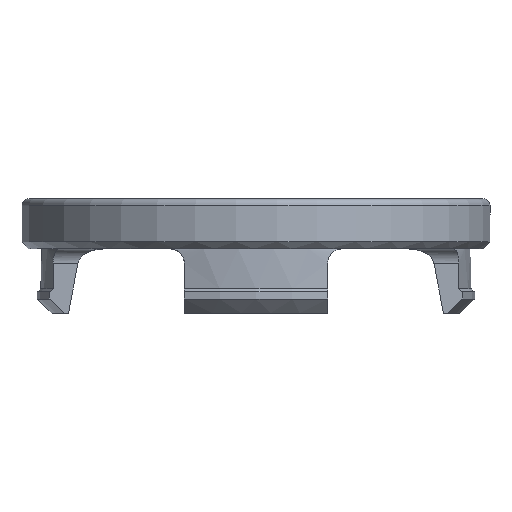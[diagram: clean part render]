
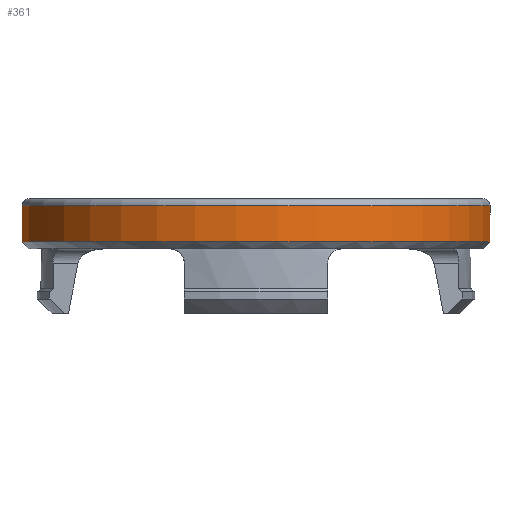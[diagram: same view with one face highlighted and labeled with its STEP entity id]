
A CAD part, front view. The second image highlights one B-rep face of the part: STEP entity #361.
In plain terms, the highlighted cylindrical face has radius 32.75 mm (diameter 65.5 mm), a partial arc.
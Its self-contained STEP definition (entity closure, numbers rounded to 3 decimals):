
#76=CYLINDRICAL_SURFACE('',#1568,32.75);
#132=FACE_OUTER_BOUND('',#547,.T.);
#230=LINE('',#2667,#297);
#231=LINE('',#2671,#298);
#297=VECTOR('',#1810,1.);
#298=VECTOR('',#1813,1.);
#361=ADVANCED_FACE('',(#132),#76,.T.);
#483=CIRCLE('',#1566,32.75);
#484=CIRCLE('',#1567,32.75);
#547=EDGE_LOOP('',(#803,#804,#805,#806));
#803=ORIENTED_EDGE('',*,*,#1292,.T.);
#804=ORIENTED_EDGE('',*,*,#1293,.T.);
#805=ORIENTED_EDGE('',*,*,#1294,.T.);
#806=ORIENTED_EDGE('',*,*,#1295,.T.);
#1120=VERTEX_POINT('',#2665);
#1121=VERTEX_POINT('',#2666);
#1122=VERTEX_POINT('',#2668);
#1123=VERTEX_POINT('',#2670);
#1292=EDGE_CURVE('',#1120,#1121,#483,.T.);
#1293=EDGE_CURVE('',#1121,#1122,#230,.T.);
#1294=EDGE_CURVE('',#1122,#1123,#484,.T.);
#1295=EDGE_CURVE('',#1123,#1120,#231,.T.);
#1566=AXIS2_PLACEMENT_3D('',#2664,#1808,#1809);
#1567=AXIS2_PLACEMENT_3D('',#2669,#1811,#1812);
#1568=AXIS2_PLACEMENT_3D('',#2672,#1814,#1815);
#1808=DIRECTION('',(0.,0.,1.));
#1809=DIRECTION('',(-1.,0.,0.));
#1810=DIRECTION('',(0.,0.,1.));
#1811=DIRECTION('',(0.,0.,-1.));
#1812=DIRECTION('',(-1.,0.,0.));
#1813=DIRECTION('',(0.,0.,-1.));
#1814=DIRECTION('',(0.,0.,-1.));
#1815=DIRECTION('',(-1.,0.,0.));
#2664=CARTESIAN_POINT('',(-1.574,58.482,1.));
#2665=CARTESIAN_POINT('',(17.387,85.185,1.));
#2666=CARTESIAN_POINT('',(25.128,77.444,1.));
#2667=CARTESIAN_POINT('',(25.128,77.444,7.));
#2668=CARTESIAN_POINT('',(25.128,77.444,6.));
#2669=CARTESIAN_POINT('',(-1.574,58.482,6.));
#2670=CARTESIAN_POINT('',(17.387,85.185,6.));
#2671=CARTESIAN_POINT('',(17.387,85.185,7.));
#2672=CARTESIAN_POINT('',(-1.574,58.482,7.));
